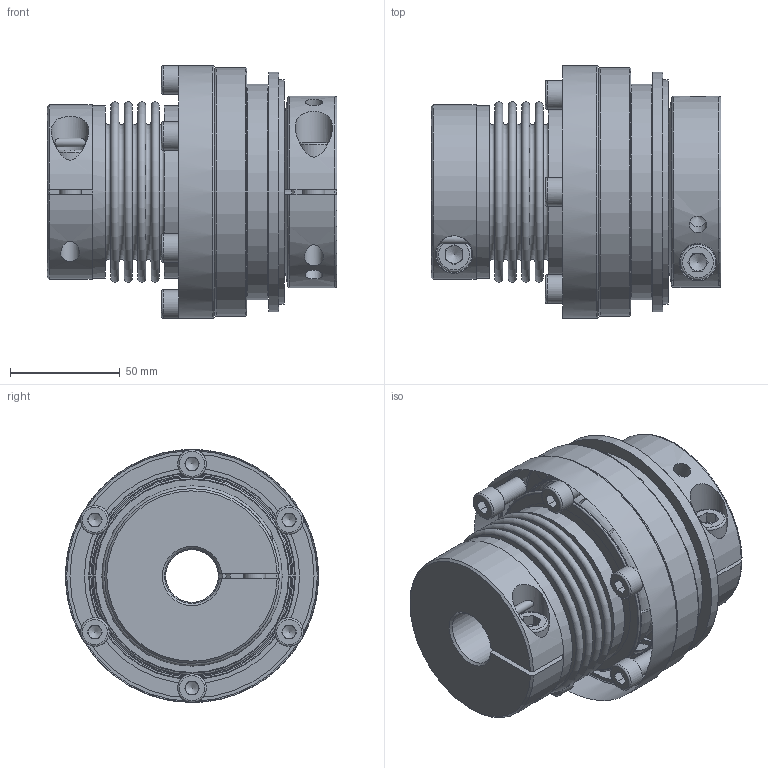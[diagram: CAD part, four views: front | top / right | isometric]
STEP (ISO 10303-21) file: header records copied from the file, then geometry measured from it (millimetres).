
FILE_DESCRIPTION( ( 'Unknown' ), '1' );
FILE_NAME( 'F:/JAKOB-STEP+IGES-Dateien/STEP-Dateien/SKB-KP/SKB-KP 230.stp', 'Unknown', ( 'Unknown' ), ( 'Unknown' ), 'PSStep 10.1', 'Unknown', ' ' );
FILE_SCHEMA( ( 'AUTOMOTIVE_DESIGN { 1 0 10303 214 1 1 1 1 }' ) );
Length unit declared in the file: millimetre
Products named in the file (1): kt100627
Bounding box: 131.9 x 115 x 115 mm (x, y, z)
Volume: 642396.3 mm3; surface area: 177732.5 mm2
Topology: 1 solids, 9 shells, 420 faces, 1092 edges, 699 vertices
Faces by surface type: plane 219, cylinder 83, torus 72, cone 30, sphere 12, bspline 4
Full cylindrical faces by diameter (mm): 2.5 x2, 5 x1, 6.8 x6, 8 x9, 8.5 x2, 8.6 x6, 10 x2, 10.5 x2, 13 x6, 16 x2, 17 x2, 24 x1, 31 x1, 47.5 x1, 49.8 x1, 50 x2, 58 x1, 62 x1, 62.5 x2, 65 x1, 78.1 x2, 78.5 x2, 90 x3, 93.5 x1, 94 x1, 97.9 x1, 102 x1, 109 x1, 113 x1, 115 x1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
Entity records: 16791 total; most frequent: CARTESIAN_POINT 4112, DIRECTION 1935, ORIENTED_EDGE 1740, EDGE_CURVE 870, AXIS2_PLACEMENT_3D 798, EDGE_LOOP 626, VERTEX_POINT 621, FACE_OUTER_BOUND 513
